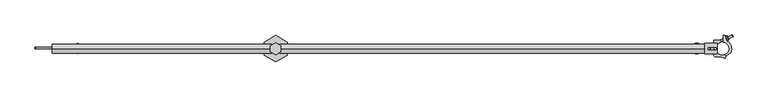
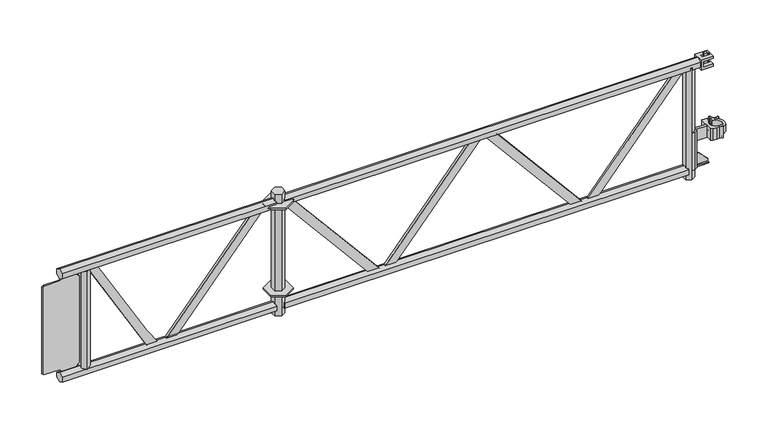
"""IFC4 building model written with IfcOpenShell, lengths in millimetres: proxy geometry, アルバトロスAK4スパン梁枠短ピン付_軽 : アルバトロスAK4スパン梁枠短ピン付_軽."""

from ifc_helpers import new_model, si_unit, point, frame, frame_2d, origin, place, context, project, spatial, polyline, circle_curve, ellipse_curve, trimmed, segment, composite_curve, outline, extrude, faceted_brep, source, transform, mapped, element, save
from ifc_brep_helpers import plane_surface, cylinder_surface, revolved_surface, advanced_brep


def generic_models_5d8191d4(model_context):
    return source(origin(), model_context, "Body", "SolidModel", [
        extrude(outline(polyline([(5522.8993464, 26.5), (5522.8993464, -26.5), (5477.0, -53.0), (5431.1006536, -26.5), (5431.1006536, 26.5), (5477.0, 53.0), (5522.8993464, 26.5)])), frame((0.0, 0.0, -384.0), z_axis=(0.0, 0.0, 1.0), x_axis=(1.0, 0.0, 0.0)), (0.0, 0.0, 1.0), 8.0),
        extrude(outline(polyline([(5522.8993464, 26.5), (5522.8993464, -26.5), (5477.0, -53.0), (5431.1006536, -26.5), (5431.1006536, 26.5), (5477.0, 53.0), (5522.8993464, 26.5)])), frame((0.0, 0.0, -4.0), z_axis=(0.0, 0.0, 1.0), x_axis=(1.0, 0.0, 0.0)), (0.0, 0.0, 1.0), 8.0),
        extrude(outline(polyline([(18.4896424, -439.325), (18.4896424, -460.675), (0.0, -471.35), (-18.4896424, -460.675), (-18.4896424, -439.325), (0.0, -428.65), (18.4896424, -439.325)])), frame((5493.3, 0.0, 0.0), z_axis=(1.0, 0.0, 0.0), x_axis=(0.0, 1.0, 0.0)), (0.0, 0.0, 1.0), 1663.7706837),
        advanced_brep(
        [(7205.5, 18.4896424, 10.675), (7205.5, 0.0, 21.35), (7205.5, -18.4896424, 10.675), (7205.5, -18.4896424, -10.675), (7205.5, 0.0, -21.35), (7205.5, 18.4896424, -10.675), (5493.3, 18.4896424, 10.675), (5493.3, 18.4896424, 4.5), (5493.3, -18.4896424, 4.5), (5493.3, -18.4896424, 10.675), (5493.3, 0.0, 21.35), (5493.3, -18.4896424, -10.675), (5493.3, -18.4896424, -4.5), (5493.3, 18.4896424, -4.5), (5493.3, 18.4896424, -10.675), (5493.3, 0.0, -21.35), (5525.5010555, 18.4896424, -4.5), (5525.5010555, -18.4896424, -4.5), (5525.5010555, -18.4896424, 4.5), (5525.5010555, 18.4896424, 4.5)],
        [
            (0, 1),
            (1, 2),
            (2, 3),
            (3, 4),
            (4, 5),
            (5, 0),
            (6, 7),
            (7, 8),
            (8, 9),
            (9, 10),
            (10, 6),
            (11, 12),
            (12, 13),
            (13, 14),
            (14, 15),
            (15, 11),
            (16, 13),
            (12, 17),
            (17, 16),
            (17, 18, circle_curve(frame((5525.5010555, -18.4896424, 0.0), z_axis=(0.0, -1.0, 0.0), x_axis=(-1.0, 0.0, 0.0)), 4.5)),
            (18, 19),
            (19, 16, circle_curve(frame((5525.5010555, 18.4896424, 0.0), z_axis=(0.0, 1.0, 0.0), x_axis=(-1.0, 0.0, 0.0)), 4.5)),
            (18, 8),
            (7, 19),
            (5, 14),
            (6, 0),
            (4, 15),
            (3, 11),
            (2, 9),
            (1, 10),
        ],
        [
            plane_surface(frame((7205.5, 18.4896424, 10.675), z_axis=(1.0, 0.0, 0.0), x_axis=(0.0, 0.0, -1.0))),
            plane_surface(frame((5493.3, 18.4896424, 10.675), z_axis=(-1.0, 0.0, 0.0), x_axis=(0.0, 0.0, 1.0))),
            plane_surface(frame((5490.5010555, 25.03115, -4.5), z_axis=(2.6608967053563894e-11, 0.0, 1.0), x_axis=(0.0, -1.0, 0.0))),
            revolved_surface(polyline([(5521.0010555, 18.4896424, 0.0), (5521.0010555, -18.4896424, 0.0)]), (5525.5010555, -25.0312, 0.0), (0.0, 1.0, 0.0)),
            plane_surface(frame((5525.5010555, 25.03115, 4.5), z_axis=(0.0, 0.0, -1.0), x_axis=(0.0, -1.0, 0.0))),
            plane_surface(frame((7205.5, 18.4896424, 10.675), z_axis=(0.0, 1.0, 0.0), x_axis=(-1.0, 0.0, 0.0))),
            plane_surface(frame((7205.5, 18.4896424, -10.675), z_axis=(0.0, 0.5000000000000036, -0.8660254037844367), x_axis=(-1.0, 0.0, 0.0))),
            plane_surface(frame((7205.5, 0.0, -21.35), z_axis=(0.0, -0.4999999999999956, -0.8660254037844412), x_axis=(-1.0, 0.0, 0.0))),
            plane_surface(frame((7205.5, -18.4896424, -10.675), z_axis=(0.0, -1.0, 0.0), x_axis=(-1.0, 0.0, 0.0))),
            plane_surface(frame((7205.5, -18.4896424, 10.675), z_axis=(0.0, -0.5000000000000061, 0.8660254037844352), x_axis=(-1.0, 0.0, 0.0))),
            plane_surface(frame((7205.5, 0.0, 21.35), z_axis=(0.0, 0.4999999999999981, 0.8660254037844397), x_axis=(-1.0, 0.0, 0.0))),
        ],
        [
            (0, [[1, 2, 3, 4, 5, 6]]),
            (1, [[7, 8, 9, 10, 11]]),
            (1, [[12, 13, 14, 15, 16]]),
            (2, [[17, -13, 18, 19]]),
            (3, [[20, 21, 22, -19]]),
            (4, [[23, -8, 24, -21]]),
            (5, [[25, -14, -17, -22, -24, -7, 26, -6]]),
            (6, [[27, -15, -25, -5]]),
            (7, [[28, -16, -27, -4]]),
            (8, [[29, -9, -23, -20, -18, -12, -28, -3]]),
            (9, [[30, -10, -29, -2]]),
            (10, [[-26, -11, -30, -1]]),
        ],
    ),
        extrude(outline(polyline([(18.4896424, -439.325), (18.4896424, -460.675), (0.0, -471.35), (-18.4896424, -460.675), (-18.4896424, -439.325), (0.0, -428.65), (18.4896424, -439.325)])), frame((4577.0, 0.0, 0.0), z_axis=(1.0, 0.0, 0.0), x_axis=(0.0, 1.0, 0.0)), (0.0, 0.0, 1.0), 883.7),
        extrude(outline(polyline([(7148.6603576, -10.675), (7148.6603576, 10.675), (7167.15, 21.35), (7185.6396424, 10.675), (7185.6396424, -10.675), (7167.15, -21.35), (7148.6603576, -10.675)])), frame((0.0, 0.0, -484.5), z_axis=(0.0, 0.0, 1.0), x_axis=(1.0, 0.0, 0.0)), (0.0, 0.0, 1.0), 484.5),
        extrude(outline(polyline([(-439.0561906, 5895.7916225), (-13.8441735, 5537.5410927), (-13.8441735, 5493.1572449), (-439.0561906, 5849.9524916), (-439.0561906, 5895.7916225)])), frame((0.0, -5.0, 0.0), z_axis=(0.0, 1.0, 0.0), x_axis=(0.0, 0.0, 1.0)), (0.0, 0.0, 1.0), 10.0),
        extrude(outline(polyline([(-439.0561906, 5053.2022813), (-13.8441735, 5411.4626882), (-13.8441735, 5365.7634358), (-439.0561906, 5007.5030289), (-439.0561906, 5053.2022813)])), frame((0.0, -5.0, 0.0), z_axis=(0.0, 1.0, 0.0), x_axis=(0.0, 0.0, 1.0)), (0.0, 0.0, 1.0), 10.0),
        extrude(outline(polyline([(-439.0561906, 5952.7023303), (-13.8441735, 6310.9627372), (-13.8441735, 6265.1137292), (-439.0561906, 5908.3184825), (-439.0561906, 5952.7023303)])), frame((0.0, -5.0, 0.0), z_axis=(0.0, 1.0, 0.0), x_axis=(0.0, 0.0, 1.0)), (0.0, 0.0, 1.0), 10.0),
        extrude(outline(polyline([(-439.0561906, 6787.8919984), (-13.8441735, 7144.6872451), (-13.8441735, 7100.3033973), (-439.0561906, 6743.5081506), (-439.0561906, 6787.8919984)])), frame((0.0, -5.0, 0.0), z_axis=(0.0, 1.0, 0.0), x_axis=(0.0, 0.0, 1.0)), (0.0, 0.0, 1.0), 10.0),
        extrude(outline(polyline([(-439.0561906, 6729.5260075), (-13.8441735, 6372.7307608), (-13.8441735, 6327.0503023), (-439.0561906, 6685.3008321), (-439.0561906, 6729.5260075)])), frame((0.0, -5.0, 0.0), z_axis=(0.0, 1.0, 0.0), x_axis=(0.0, 0.0, 1.0)), (0.0, 0.0, 1.0), 10.0),
        extrude(outline(composite_curve([segment(polyline([(-367.1676777, 4933.6340565), (-12.1775466, 4727.0076208), (-12.1775466, 4689.4205905), (-439.0561906, 4935.8790905), (-439.0561906, 4983.0382567)]), True, "CONTINUOUS"), segment(trimmed(circle_curve(frame_2d((55.4241867, 5625.5563471)), 810.7652805), [point((-439.0561906, 4983.0382567))], [point((-367.1676777, 4933.6340565))], True, "CARTESIAN"), True, "CONTINUOUS")], self_intersect=False)), frame((0.0, -5.0, 0.0), z_axis=(0.0, 1.0, 0.0), x_axis=(0.0, 0.0, 1.0)), (0.0, 0.0, 1.0), 10.0),
        extrude(outline(polyline([(4660.6603576, -10.675), (4660.6603576, 10.675), (4679.15, 21.35), (4697.6396424, 10.675), (4697.6396424, -10.675), (4679.15, -21.35), (4660.6603576, -10.675)])), frame((0.0, 0.0, -438.1500095), z_axis=(0.0, 0.0, 1.0), x_axis=(1.0, 0.0, 0.0)), (0.0, 0.0, 1.0), 426.300019),
        extrude(outline(polyline([(-21.35, 4587.65), (-31.5, 4577.5), (-31.5, 4512.5), (-36.5, 4507.5), (-413.5, 4507.5), (-418.5, 4512.5), (-418.5, 4577.5), (-428.65, 4587.65), (-428.65, 4642.35), (-413.35, 4657.65), (-36.65, 4657.65), (-21.35, 4642.35), (-21.35, 4587.65)])), frame((0.0, 0.0, 0.0), z_axis=(0.0, 1.0, 0.0), x_axis=(0.0, 0.0, 1.0)), (0.0, 0.0, 1.0), 5.0),
        extrude(outline(polyline([(7179.7665977, 21.3785293), (7193.0, 13.7382209), (7193.0, -13.7382209), (7179.8160119, -21.35), (7167.15, -21.35), (7185.6396424, -10.675), (7185.6396424, 10.675), (7167.1005859, 21.3785293), (7179.7665977, 21.3785293)])), frame((0.0, 0.0, -446.0), z_axis=(0.0, 0.0, 1.0), x_axis=(1.0, 0.0, 0.0)), (0.0, 0.0, 1.0), 163.0),
        advanced_brep(
        [(7240.760376, 32.957563, -285.0), (7240.760376, -25.297825, -285.0), (7248.260376, -32.797825, -285.0), (7262.838406, -32.797825, -285.0), (7273.9922001, -34.3843784, -285.0), (7286.6376322, -38.0561272, -285.0), (7287.8975799, -37.2892777, -285.0), (7288.994413, -31.7276249, -285.0), (7282.6904713, -25.5745678, -285.0), (7269.006281, 24.9507606, -285.0), (7269.006281, 30.457563, -285.0), (7265.006281, 34.457563, -285.0), (7242.260376, 34.457563, -285.0), (7240.760376, 32.957563, -335.0), (7242.260376, 34.457563, -335.0), (7265.006281, 34.457563, -335.0), (7269.006281, 30.457563, -335.0), (7269.006281, 24.9507606, -335.0), (7282.692228, -25.5741772, -335.0), (7288.994413, -31.7276249, -335.0), (7287.8975801, -37.2892778, -335.0), (7286.6376322, -38.0561272, -335.0), (7273.9922, -34.384378, -335.0), (7262.838406, -32.797825, -335.0), (7248.260376, -32.797825, -335.0), (7240.760376, -25.297825, -335.0)],
        [
            (0, 1),
            (1, 2, circle_curve(frame((7248.260376, -25.297825, -285.0), z_axis=(0.0, 0.0, 1.0), x_axis=(1.0, 0.0, 0.0)), 7.5)),
            (2, 3),
            (3, 4, circle_curve(frame((7262.838406, -72.797825, -285.0), z_axis=(0.0, 0.0, -1.0), x_axis=(1.0, 0.0, 0.0)), 40.0)),
            (4, 5),
            (5, 6, circle_curve(frame((7286.916477, -37.095791, -285.0), z_axis=(0.0, 0.0, 1.0), x_axis=(1.0, 0.0, 0.0)), 1.0)),
            (6, 7),
            (7, 8, circle_curve(frame((7283.833073, -30.709739, -285.0), z_axis=(0.0, 0.0, 1.0), x_axis=(1.0, 0.0, 0.0)), 5.260753)),
            (8, 9, circle_curve(frame((7277.0, 0.0, -285.0), z_axis=(0.0, 0.0, -1.0), x_axis=(1.0, 0.0, 0.0)), 26.2)),
            (9, 10),
            (10, 11, circle_curve(frame((7265.006281, 30.457563, -285.0), z_axis=(0.0, 0.0, 1.0), x_axis=(1.0, 0.0, 0.0)), 4.0)),
            (11, 12),
            (12, 0, circle_curve(frame((7242.260376, 32.957563, -285.0), z_axis=(0.0, 0.0, 1.0), x_axis=(1.0, 0.0, 0.0)), 1.5)),
            (13, 14, circle_curve(frame((7242.260376, 32.957563, -335.0), z_axis=(0.0, 0.0, -1.0), x_axis=(1.0, 0.0, 0.0)), 1.5)),
            (14, 15),
            (15, 16, circle_curve(frame((7265.006281, 30.457563, -335.0), z_axis=(0.0, 0.0, -1.0), x_axis=(1.0, 0.0, 0.0)), 4.0)),
            (16, 17),
            (17, 18, circle_curve(frame((7277.0, 0.0, -335.0), z_axis=(0.0, 0.0, 1.0), x_axis=(1.0, 0.0, 0.0)), 26.2)),
            (18, 19, circle_curve(frame((7283.833073, -30.709739, -335.0), z_axis=(0.0, 0.0, -1.0), x_axis=(1.0, 0.0, 0.0)), 5.260753)),
            (19, 20),
            (20, 21, circle_curve(frame((7286.916477, -37.095791, -335.0), z_axis=(0.0, 0.0, -1.0), x_axis=(1.0, 0.0, 0.0)), 1.0)),
            (21, 22),
            (22, 23, circle_curve(frame((7262.838406, -72.797825, -335.0), z_axis=(0.0, 0.0, 1.0), x_axis=(1.0, 0.0, 0.0)), 40.0)),
            (23, 24),
            (24, 25, circle_curve(frame((7248.260376, -25.297825, -335.0), z_axis=(0.0, 0.0, -1.0), x_axis=(1.0, 0.0, 0.0)), 7.5)),
            (25, 13),
            (0, 13),
            (25, 1),
            (24, 2),
            (23, 3),
            (22, 4),
            (21, 5),
            (20, 6),
            (19, 7),
            (18, 8),
            (17, 9),
            (16, 10),
            (15, 11),
            (14, 12),
        ],
        [
            plane_surface(frame((7243.760376, 32.957563, -285.0), z_axis=(0.0, 0.0, 1.0), x_axis=(0.0, -1.0, 0.0))),
            plane_surface(frame((7243.760376, 32.957563, -335.0), z_axis=(0.0, 0.0, -1.0), x_axis=(0.0, 1.0, 0.0))),
            plane_surface(frame((7240.760376, -25.297825, -285.0), z_axis=(-1.0, 0.0, 0.0), x_axis=(0.0, 0.0, -1.0))),
            cylinder_surface(frame((7248.260376, -25.297825, -335.0), z_axis=(0.0, 0.0, 1.0), x_axis=(1.0, 0.0, 0.0)), 7.5),
            plane_surface(frame((7262.838406, -32.797825, -285.0), z_axis=(0.0, -1.0, 0.0), x_axis=(0.0, 0.0, -1.0))),
            revolved_surface(polyline([(7302.838406, -72.797825, -335.0), (7302.838406, -72.797825, -285.0)]), (7262.838406, -72.797825, -335.0), (0.0, 0.0, -1.0)),
            plane_surface(frame((7286.6376322, -38.0561272, -285.0), z_axis=(-0.27884484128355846, -0.9603361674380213, 0.0), x_axis=(0.0, 0.0, -1.0))),
            cylinder_surface(frame((7286.916477, -37.095791, -335.0), z_axis=(0.0, 0.0, 1.0), x_axis=(1.0, 0.0, 0.0)), 1.0),
            plane_surface(frame((7288.994413, -31.7276249, -285.0), z_axis=(0.9811028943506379, -0.19348671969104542, 0.0), x_axis=(0.0, 0.0, -1.0))),
            cylinder_surface(frame((7283.833073, -30.709739, -335.0), z_axis=(0.0, 0.0, 1.0), x_axis=(1.0, 0.0, 0.0)), 5.260753),
            revolved_surface(polyline([(7303.2, 0.0, -335.0), (7303.2, 0.0, -285.0)]), (7277.0, 0.0, -335.0), (0.0, 0.0, -1.0)),
            plane_surface(frame((7269.006281, 30.457563, -285.0), z_axis=(1.0, 0.0, 0.0), x_axis=(0.0, 0.0, -1.0))),
            cylinder_surface(frame((7265.006281, 30.457563, -335.0), z_axis=(0.0, 0.0, 1.0), x_axis=(1.0, 0.0, 0.0)), 4.0),
            plane_surface(frame((7242.260376, 34.457563, -285.0), z_axis=(0.0, 1.0, 0.0), x_axis=(0.0, 0.0, -1.0))),
            cylinder_surface(frame((7242.260376, 32.957563, -335.0), z_axis=(0.0, 0.0, 1.0), x_axis=(1.0, 0.0, 0.0)), 1.5),
        ],
        [
            (0, [[1, 2, 3, 4, 5, 6, 7, 8, 9, 10, 11, 12, 13]]),
            (1, [[14, 15, 16, 17, 18, 19, 20, 21, 22, 23, 24, 25, 26]]),
            (2, [[27, -26, 28, -1]]),
            (3, [[-28, -25, 29, -2]]),
            (4, [[-29, -24, 30, -3]]),
            (5, [[-30, -23, 31, -4]]),
            (6, [[-31, -22, 32, -5]]),
            (7, [[-32, -21, 33, -6]]),
            (8, [[-33, -20, 34, -7]]),
            (9, [[-34, -19, 35, -8]]),
            (10, [[-35, -18, 36, -9]]),
            (11, [[-36, -17, 37, -10]]),
            (12, [[-37, -16, 38, -11]]),
            (13, [[-38, -15, 39, -12]]),
            (14, [[-39, -14, -27, -13]]),
        ],
    ),
        advanced_brep(
        [(7279.953176, 26.0330319, -294.5), (7282.6904714, -25.5745681, -294.5), (7288.994413, -31.7276248, -294.5), (7288.6296233, -33.5773448, -294.5), (7309.0794389, -16.7734791, -294.5), (7293.4637483, 32.2394943, -294.5), (7285.5386472, 51.7679076, -294.5), (7283.685439, 53.015831, -294.5), (7279.953176, 53.015831, -294.5), (7279.953176, 26.0330319, -325.5), (7279.953176, 53.015831, -325.5), (7283.685439, 53.015831, -325.5), (7285.5386472, 51.7679076, -325.5), (7293.4637483, 32.2394943, -325.5), (7309.0794389, -16.7734791, -325.5), (7288.6296233, -33.5773448, -325.5), (7288.994413, -31.7276248, -325.5), (7282.6904713, -25.5745678, -325.5)],
        [
            (0, 1, circle_curve(frame((7277.0, 0.0, -294.5), z_axis=(0.0, 0.0, -1.0), x_axis=(1.0, 0.0, 0.0)), 26.2)),
            (1, 2, circle_curve(frame((7283.833073, -30.709739, -294.5), z_axis=(0.0, 0.0, -1.0), x_axis=(1.0, 0.0, 0.0)), 5.260753)),
            (2, 3),
            (3, 4),
            (4, 5, circle_curve(frame((7277.0, 0.0, -294.5), z_axis=(0.0, 0.0, 1.0), x_axis=(1.0, 0.0, 0.0)), 36.2)),
            (5, 6),
            (6, 7, circle_curve(frame((7283.685439, 51.015831, -294.5), z_axis=(0.0, 0.0, 1.0), x_axis=(1.0, 0.0, 0.0)), 2.0)),
            (7, 8),
            (8, 0),
            (9, 10),
            (10, 11),
            (11, 12, circle_curve(frame((7283.685439, 51.015831, -325.5), z_axis=(0.0, 0.0, -1.0), x_axis=(1.0, 0.0, 0.0)), 2.0)),
            (12, 13),
            (13, 14, circle_curve(frame((7277.0, 0.0, -325.5), z_axis=(0.0, 0.0, -1.0), x_axis=(1.0, 0.0, 0.0)), 36.2)),
            (14, 15),
            (15, 16),
            (16, 17, circle_curve(frame((7283.833073, -30.709739, -325.5), z_axis=(0.0, 0.0, 1.0), x_axis=(1.0, 0.0, 0.0)), 5.260753)),
            (17, 9, circle_curve(frame((7277.0, 0.0, -325.5), z_axis=(0.0, 0.0, 1.0), x_axis=(1.0, 0.0, 0.0)), 26.2)),
            (0, 9),
            (17, 1),
            (16, 2),
            (15, 3),
            (14, 4),
            (13, 5),
            (12, 6),
            (11, 7),
            (10, 8),
        ],
        [
            plane_surface(frame((7279.953176, 53.015831, -294.5), z_axis=(0.0, 0.0, 1.0), x_axis=(0.0, 1.0, 0.0))),
            plane_surface(frame((7279.953176, 53.015831, -325.5), z_axis=(0.0, 0.0, -1.0), x_axis=(0.0, -1.0, 0.0))),
            revolved_surface(polyline([(7303.2, 0.0, -325.5), (7303.2, 0.0, -294.5)]), (7277.0, 0.0, -325.5), (0.0, 0.0, -1.0)),
            revolved_surface(polyline([(7289.093825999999, -30.709739, -325.5), (7289.093825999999, -30.709739, -294.5)]), (7283.833073, -30.709739, -325.5), (0.0, 0.0, -1.0)),
            plane_surface(frame((7288.6296233, -33.5773448, -294.5), z_axis=(-0.9811028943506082, 0.19348671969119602, 0.0), x_axis=(0.0, 0.0, -1.0))),
            plane_surface(frame((7309.0794389, -16.7734791, -294.5), z_axis=(0.6348703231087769, -0.7726187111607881, 0.0), x_axis=(0.0, 0.0, -1.0))),
            cylinder_surface(frame((7277.0, 0.0, -325.5), z_axis=(0.0, 0.0, 1.0), x_axis=(1.0, 0.0, 0.0)), 36.2),
            plane_surface(frame((7285.5386472, 51.7679076, -294.5), z_axis=(0.9266041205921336, 0.37603830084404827, 0.0), x_axis=(0.0, 0.0, -1.0))),
            cylinder_surface(frame((7283.685439, 51.015831, -325.5), z_axis=(0.0, 0.0, 1.0), x_axis=(1.0, 0.0, 0.0)), 2.0),
            plane_surface(frame((7279.953176, 53.015831, -294.5), z_axis=(0.0, 1.0, 0.0), x_axis=(0.0, 0.0, -1.0))),
            plane_surface(frame((7279.953176, 26.0330319, -294.5), z_axis=(-1.0, 0.0, 0.0), x_axis=(0.0, 0.0, -1.0))),
        ],
        [
            (0, [[1, 2, 3, 4, 5, 6, 7, 8, 9]]),
            (1, [[10, 11, 12, 13, 14, 15, 16, 17, 18]]),
            (2, [[19, -18, 20, -1]]),
            (3, [[-20, -17, 21, -2]]),
            (4, [[-21, -16, 22, -3]]),
            (5, [[-22, -15, 23, -4]]),
            (6, [[-23, -14, 24, -5]]),
            (7, [[-24, -13, 25, -6]]),
            (8, [[-25, -12, 26, -7]]),
            (9, [[-26, -11, 27, -8]]),
            (10, [[-27, -10, -19, -9]]),
        ],
    ),
        advanced_brep(
        [(7291.963329, 35.9367148, -310.0), (7267.7691317, 26.118126, -310.0), (7264.384787, 34.457563, -310.0), (7288.5789843, 44.2761518, -310.0), (7266.0769593, 30.2878445, -310.0), (7318.069279, 51.3875817, -310.0), (7319.385413, 48.1444675, -310.0), (7316.753145, 54.630696, -310.0), (7318.8348462, 46.8418252, -310.0), (7315.450502, 55.181261, -310.0), (7301.229369, 39.6970964, -310.0), (7297.8450237, 48.036535, -310.0), (7302.0754547, 37.6122381, -310.0), (7296.9989379, 50.1213932, -310.0), (7301.9949365, 35.1513404, -310.0), (7295.2262473, 51.8302141, -310.0), (7295.5087077, 32.5190735, -310.0), (7288.7400193, 49.1979451, -310.0), (7296.2607849, 30.6658636, -310.0), (7287.987942, 51.051155, -310.0), (7294.4075743, 29.913793, -310.0), (7286.1347363, 50.2990724, -310.0)],
        [
            (0, 1),
            (1, 2, circle_curve(frame((7266.0769593, 30.2878445, -310.0), z_axis=(0.9266041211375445, 0.3760382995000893, 0.0), x_axis=(-0.3760382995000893, 0.9266041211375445, 0.0)), 4.4999999)),
            (2, 3),
            (3, 0, circle_curve(frame((7290.2711567, 40.1064333, -310.0), z_axis=(-0.9266041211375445, -0.3760382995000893, 0.0), x_axis=(-0.3760382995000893, 0.9266041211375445, 0.0)), 4.4999999)),
            (2, 1, circle_curve(frame((7266.0769593, 30.2878445, -310.0), z_axis=(0.9266041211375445, 0.3760382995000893, 0.0), x_axis=(-0.3760382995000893, 0.9266041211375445, 0.0)), 4.4999999)),
            (0, 3, circle_curve(frame((7290.2711567, 40.1064333, -310.0), z_axis=(-0.9266041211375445, -0.3760382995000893, 0.0), x_axis=(-0.3760382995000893, 0.9266041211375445, 0.0)), 4.4999999)),
            (1, 4),
            (4, 2),
            (5, 6),
            (6, 7, circle_curve(frame((7318.069279, 51.3875817, -310.0), z_axis=(0.9266041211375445, 0.3760382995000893, 0.0), x_axis=(-0.3760382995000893, 0.9266041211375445, 0.0)), 3.4999998)),
            (7, 5),
            (7, 6, circle_curve(frame((7318.069279, 51.3875817, -310.0), z_axis=(0.9266041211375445, 0.3760382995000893, 0.0), x_axis=(-0.3760382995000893, 0.9266041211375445, 0.0)), 3.4999998)),
            (6, 8),
            (8, 9, circle_curve(frame((7317.1426741, 51.0115431, -310.0), z_axis=(0.9266041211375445, 0.3760382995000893, 0.0), x_axis=(-0.3760382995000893, 0.9266041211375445, 0.0)), 4.4999993)),
            (9, 7),
            (9, 8, circle_curve(frame((7317.1426741, 51.0115431, -310.0), z_axis=(0.9266041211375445, 0.3760382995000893, 0.0), x_axis=(-0.3760382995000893, 0.9266041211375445, 0.0)), 4.4999993)),
            (8, 10),
            (10, 11, circle_curve(frame((7299.5371964, 43.8668157, -310.0), z_axis=(0.9266041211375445, 0.3760382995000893, 0.0), x_axis=(-0.3760382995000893, 0.9266041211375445, 0.0)), 4.5000008)),
            (11, 9),
            (11, 10, circle_curve(frame((7299.5371964, 43.8668157, -310.0), z_axis=(0.9266041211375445, 0.3760382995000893, 0.0), x_axis=(-0.3760382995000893, 0.9266041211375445, 0.0)), 4.5000008)),
            (10, 12),
            (12, 13, circle_curve(frame((7299.5371963, 43.8668157, -310.0), z_axis=(0.9266041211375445, 0.3760382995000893, 0.0), x_axis=(-0.3760382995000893, 0.9266041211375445, 0.0)), 6.7499997)),
            (13, 11),
            (13, 12, circle_curve(frame((7299.5371963, 43.8668157, -310.0), z_axis=(0.9266041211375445, 0.3760382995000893, 0.0), x_axis=(-0.3760382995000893, 0.9266041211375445, 0.0)), 6.7499997)),
            (12, 14, circle_curve(frame((7299.2666858, 36.472372, -310.0), z_axis=(0.0, 0.0, -1.0000000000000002), x_axis=(0.7171903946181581, 0.6968772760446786, 0.0)), 3.03125)),
            (14, 15, circle_curve(frame((7298.6105919, 43.4907772, -310.0), z_axis=(0.9266041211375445, 0.3760382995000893, 0.0), x_axis=(-0.3760382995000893, 0.9266041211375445, 0.0)), 8.9999998)),
            (15, 13, circle_curve(frame((7294.190169, 48.981527, -310.0), z_axis=(0.0, 0.0, -1.0000000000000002), x_axis=(1.0000000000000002, 0.0, 0.0)), 3.03125)),
            (15, 14, circle_curve(frame((7298.6105919, 43.4907772, -310.0), z_axis=(0.9266041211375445, 0.3760382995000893, 0.0), x_axis=(-0.3760382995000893, 0.9266041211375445, 0.0)), 8.9999998)),
            (14, 16),
            (16, 17, circle_curve(frame((7292.1243635, 40.8585093, -310.0), z_axis=(0.9266041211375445, 0.3760382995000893, 0.0), x_axis=(-0.3760382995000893, 0.9266041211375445, 0.0)), 8.9999986)),
            (17, 15),
            (17, 16, circle_curve(frame((7292.1243635, 40.8585093, -310.0), z_axis=(0.9266041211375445, 0.3760382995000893, 0.0), x_axis=(-0.3760382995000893, 0.9266041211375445, 0.0)), 8.9999986)),
            (16, 18),
            (18, 19, circle_curve(frame((7292.1243634, 40.8585093, -310.0), z_axis=(0.9266041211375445, 0.3760382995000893, 0.0), x_axis=(-0.3760382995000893, 0.9266041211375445, 0.0)), 11.0000004)),
            (19, 17),
            (19, 18, circle_curve(frame((7292.1243634, 40.8585093, -310.0), z_axis=(0.9266041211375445, 0.3760382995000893, 0.0), x_axis=(-0.3760382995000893, 0.9266041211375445, 0.0)), 11.0000004)),
            (18, 20),
            (20, 21, circle_curve(frame((7290.2711553, 40.1064327, -310.0), z_axis=(0.9266041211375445, 0.3760382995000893, 0.0), x_axis=(-0.3760382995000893, 0.9266041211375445, 0.0)), 10.9999939)),
            (21, 19),
            (21, 20, circle_curve(frame((7290.2711553, 40.1064327, -310.0), z_axis=(0.9266041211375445, 0.3760382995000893, 0.0), x_axis=(-0.3760382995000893, 0.9266041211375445, 0.0)), 10.9999939)),
            (20, 0),
            (3, 21),
        ],
        [
            cylinder_surface(frame((7266.0769593, 30.2878445, -310.0), z_axis=(0.9266041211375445, 0.3760382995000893, 0.0), x_axis=(-0.3760382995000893, 0.9266041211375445, 0.0)), 4.4999999),
            plane_surface(frame((7266.0769593, 30.2878445, -310.0), z_axis=(-0.9266041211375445, -0.3760382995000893, 0.0), x_axis=(-0.3760382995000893, 0.9266041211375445, 0.0))),
            plane_surface(frame((7318.069279, 51.3875817, -310.0), z_axis=(0.9266041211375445, 0.3760382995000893, 0.0), x_axis=(-0.3760382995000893, 0.9266041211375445, 0.0))),
            revolved_surface(polyline([(7315.450502, 55.181261, -310.0), (7316.753145, 54.630696, -310.0)]), (7266.0769593, 30.2878445, -310.0), (0.9266041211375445, 0.3760382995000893, 0.0)),
            cylinder_surface(frame((7266.0769593, 30.2878445, -310.0), z_axis=(0.9266041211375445, 0.3760382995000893, 0.0), x_axis=(-0.3760382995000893, 0.9266041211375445, 0.0)), 4.5000008),
            plane_surface(frame((7299.5371963, 43.8668157, -310.0), z_axis=(0.9266041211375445, 0.3760382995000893, 0.0), x_axis=(-0.3760382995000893, 0.9266041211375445, 0.0))),
            revolved_surface(trimmed(ellipse_curve(frame((7294.190169, 48.981527, -310.0), z_axis=(0.0, 0.0, -1.0000000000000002), x_axis=(1.0000000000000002, 0.0, 0.0)), 3.03125, 3.03125), [point((7295.2262473, 51.8302141, -310.0))], [point((7296.9989377, 50.1213931, -310.0))], True, "CARTESIAN"), (7266.0769593, 30.2878445, -310.0), (0.9266041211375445, 0.3760382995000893, 0.0)),
            cylinder_surface(frame((7266.0769593, 30.2878445, -310.0), z_axis=(0.9266041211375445, 0.3760382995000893, 0.0), x_axis=(-0.3760382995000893, 0.9266041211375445, 0.0)), 8.9999986),
            plane_surface(frame((7292.1243634, 40.8585093, -310.0), z_axis=(0.9266041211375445, 0.3760382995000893, 0.0), x_axis=(-0.3760382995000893, 0.9266041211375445, 0.0))),
            cylinder_surface(frame((7266.0769593, 30.2878445, -310.0), z_axis=(0.9266041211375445, 0.3760382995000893, 0.0), x_axis=(-0.3760382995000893, 0.9266041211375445, 0.0)), 10.9999939),
            plane_surface(frame((7290.2711567, 40.1064333, -310.0), z_axis=(-0.9266041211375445, -0.3760382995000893, 0.0), x_axis=(-0.3760382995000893, 0.9266041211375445, 0.0))),
        ],
        [
            (0, [[1, 2, 3, 4]]),
            (0, [[-3, 5, -1, 6]]),
            (1, [[7, 8, -2]]),
            (1, [[-8, -7, -5]]),
            (2, [[9, 10, 11]]),
            (2, [[-11, 12, -9]]),
            (3, [[13, 14, 15, -10]]),
            (3, [[-15, 16, -13, -12]]),
            (4, [[17, 18, 19, -14]]),
            (4, [[-19, 20, -17, -16]]),
            (5, [[21, 22, 23, -18]]),
            (5, [[-23, 24, -21, -20]]),
            (6, [[25, 26, 27, -22]]),
            (6, [[-27, 28, -25, -24]]),
            (7, [[29, 30, 31, -26]]),
            (7, [[-31, 32, -29, -28]]),
            (8, [[33, 34, 35, -30]]),
            (8, [[-35, 36, -33, -32]]),
            (9, [[37, 38, 39, -34]]),
            (9, [[-39, 40, -37, -36]]),
            (10, [[41, -4, 42, -38]]),
            (10, [[-42, -6, -41, -40]]),
        ],
    ),
        advanced_brep(
        [(7283.833072, -30.709739, -287.5), (7286.3330718, -30.709739, -289.0), (7281.3330722, -30.709739, -289.0), (7287.833072, -30.709739, -289.0), (7279.833072, -30.709739, -289.0), (7287.833072, -30.709739, -290.0), (7279.833072, -30.709739, -290.0), (7283.833072, -30.709739, -290.0)],
        [
            (0, 1, circle_curve(frame((7283.833072, -30.709739, -290.333333), z_axis=(0.0, 1.0, 0.0), x_axis=(1.0, 0.0, 0.0)), 2.833333)),
            (1, 2, circle_curve(frame((7283.833072, -30.709739, -289.0), z_axis=(0.0, 0.0, 1.0), x_axis=(-1.0, 0.0, 0.0)), 2.4999998)),
            (2, 0, circle_curve(frame((7283.833072, -30.709739, -290.333333), z_axis=(0.0, 1.0, 0.0), x_axis=(-1.0, 0.0, 0.0)), 2.833333)),
            (2, 1, circle_curve(frame((7283.833072, -30.709739, -289.0), z_axis=(0.0, 0.0, 1.0), x_axis=(-1.0, 0.0, 0.0)), 2.4999998)),
            (1, 3),
            (3, 4, circle_curve(frame((7283.833072, -30.709739, -289.0), z_axis=(0.0, 0.0, 1.0), x_axis=(-1.0, 0.0, 0.0)), 4.0)),
            (4, 2),
            (4, 3, circle_curve(frame((7283.833072, -30.709739, -289.0), z_axis=(0.0, 0.0, 1.0), x_axis=(-1.0, 0.0, 0.0)), 4.0)),
            (3, 5),
            (5, 6, circle_curve(frame((7283.833072, -30.709739, -290.0), z_axis=(0.0, 0.0, 1.0), x_axis=(-1.0, 0.0, 0.0)), 4.0)),
            (6, 4),
            (6, 5, circle_curve(frame((7283.833072, -30.709739, -290.0), z_axis=(0.0, 0.0, 1.0), x_axis=(-1.0, 0.0, 0.0)), 4.0)),
            (5, 7),
            (7, 6),
        ],
        [
            revolved_surface(trimmed(ellipse_curve(frame((7283.833072, -30.709739, -290.333333), z_axis=(0.0, 1.0, 0.0), x_axis=(-1.0, 0.0, 0.0)), 2.833333, 2.833333), [point((7281.3330722, -30.709739, -289.0))], [point((7283.833072, -30.709739, -287.5))], True, "CARTESIAN"), (7283.833072, -30.709739, -290.0), (0.0, 0.0, 1.0)),
            plane_surface(frame((7283.833072, -30.709739, -289.0), z_axis=(0.0, 0.0, 1.0), x_axis=(-1.0, 0.0, 0.0))),
            cylinder_surface(frame((7283.833072, -30.709739, -290.0), z_axis=(0.0, 0.0, 1.0), x_axis=(-1.0, 0.0, 0.0)), 4.0),
            plane_surface(frame((7283.833072, -30.709739, -290.0), z_axis=(0.0, 0.0, -1.0), x_axis=(-1.0, 0.0, 0.0))),
        ],
        [
            (0, [[1, 2, 3]]),
            (0, [[-3, 4, -1]]),
            (1, [[5, 6, 7, -2]]),
            (1, [[-7, 8, -5, -4]]),
            (2, [[9, 10, 11, -6]]),
            (2, [[-11, 12, -9, -8]]),
            (3, [[13, 14, -10]]),
            (3, [[-14, -13, -12]]),
        ],
    ),
        advanced_brep(
        [(7283.833072, -30.709739, -330.0), (7287.833072, -30.709739, -330.0), (7279.833072, -30.709739, -330.0), (7287.833072, -30.709739, -331.0), (7279.833072, -30.709739, -331.0), (7286.3330718, -30.709739, -331.0), (7281.3330722, -30.709739, -331.0), (7283.833072, -30.709739, -332.5)],
        [
            (0, 1),
            (1, 2, circle_curve(frame((7283.833072, -30.709739, -330.0), z_axis=(0.0, 0.0, 1.0), x_axis=(-1.0, 0.0, 0.0)), 4.0)),
            (2, 0),
            (2, 1, circle_curve(frame((7283.833072, -30.709739, -330.0), z_axis=(0.0, 0.0, 1.0), x_axis=(-1.0, 0.0, 0.0)), 4.0)),
            (1, 3),
            (3, 4, circle_curve(frame((7283.833072, -30.709739, -331.0), z_axis=(0.0, 0.0, 1.0), x_axis=(-1.0, 0.0, 0.0)), 4.0)),
            (4, 2),
            (4, 3, circle_curve(frame((7283.833072, -30.709739, -331.0), z_axis=(0.0, 0.0, 1.0), x_axis=(-1.0, 0.0, 0.0)), 4.0)),
            (3, 5),
            (5, 6, circle_curve(frame((7283.833072, -30.709739, -331.0), z_axis=(0.0, 0.0, 1.0), x_axis=(-1.0, 0.0, 0.0)), 2.4999998)),
            (6, 4),
            (6, 5, circle_curve(frame((7283.833072, -30.709739, -331.0), z_axis=(0.0, 0.0, 1.0), x_axis=(-1.0, 0.0, 0.0)), 2.4999998)),
            (5, 7, circle_curve(frame((7283.833072, -30.709739, -329.666667), z_axis=(0.0, 1.0, 0.0), x_axis=(1.0, 0.0, 0.0)), 2.833333)),
            (7, 6, circle_curve(frame((7283.833072, -30.709739, -329.666667), z_axis=(0.0, 1.0, 0.0), x_axis=(-1.0, 0.0, 0.0)), 2.833333)),
        ],
        [
            plane_surface(frame((7283.833072, -30.709739, -330.0), z_axis=(0.0, 0.0, 1.0), x_axis=(-1.0, 0.0, 0.0))),
            cylinder_surface(frame((7283.833072, -30.709739, -290.0), z_axis=(0.0, 0.0, 1.0), x_axis=(-1.0, 0.0, 0.0)), 4.0),
            plane_surface(frame((7283.833072, -30.709739, -331.0), z_axis=(0.0, 0.0, -1.0), x_axis=(-1.0, 0.0, 0.0))),
            revolved_surface(trimmed(ellipse_curve(frame((7283.833072, -30.709739, -329.666667), z_axis=(0.0, 1.0, 0.0), x_axis=(-1.0, 0.0, 0.0)), 2.833333, 2.833333), [point((7283.833072, -30.709739, -332.5))], [point((7281.3330722, -30.709739, -331.0))], True, "CARTESIAN"), (7283.833072, -30.709739, -290.0), (0.0, 0.0, 1.0)),
        ],
        [
            (0, [[1, 2, 3]]),
            (0, [[-3, 4, -1]]),
            (1, [[5, 6, 7, -2]]),
            (1, [[-7, 8, -5, -4]]),
            (2, [[9, 10, 11, -6]]),
            (2, [[-11, 12, -9, -8]]),
            (3, [[13, 14, -10]]),
            (3, [[-14, -13, -12]]),
        ],
    ),
        advanced_brep(
        [(7263.9085379, 24.359331, -288.8026573), (7263.9085379, 25.408447, -288.8026573), (7263.9085379, 33.408447, -288.8026573), (7263.9085379, 34.457563, -288.8026573), (7263.9085379, 25.408447, -287.8026573), (7263.9085379, 33.408447, -287.8026573), (7263.9085379, 26.9084474, -287.8026573), (7263.9085379, 31.9084466, -287.8026573), (7263.9085379, 29.408447, -286.6020463), (7263.9085379, 29.408447, -333.8828615), (7263.9085379, 26.9084474, -332.6822505), (7263.9085379, 31.9084466, -332.6822505), (7263.9085379, 25.408447, -332.6822505), (7263.9085379, 33.408447, -332.6822505), (7263.9085379, 25.408447, -331.6822505), (7263.9085379, 33.408447, -331.6822505), (7263.9085379, 24.359331, -331.6822505), (7263.9085379, 34.457563, -331.6822505)],
        [
            (0, 1),
            (1, 2, circle_curve(frame((7263.9085379, 29.408447, -288.8026573), z_axis=(0.0, 0.0, -1.0), x_axis=(0.0, 1.0, 0.0)), 4.0)),
            (2, 3),
            (3, 0, circle_curve(frame((7263.9085379, 29.408447, -288.8026573), z_axis=(0.0, 0.0, 1.0), x_axis=(0.0, 1.0, 0.0)), 5.049116)),
            (2, 1, circle_curve(frame((7263.9085379, 29.408447, -288.8026573), z_axis=(0.0, 0.0, -1.0), x_axis=(0.0, 1.0, 0.0)), 4.0)),
            (0, 3, circle_curve(frame((7263.9085379, 29.408447, -288.8026573), z_axis=(0.0, 0.0, 1.0), x_axis=(0.0, 1.0, 0.0)), 5.049116)),
            (1, 4),
            (4, 5, circle_curve(frame((7263.9085379, 29.408447, -287.8026573), z_axis=(0.0, 0.0, -1.0), x_axis=(0.0, 1.0, 0.0)), 4.0)),
            (5, 2),
            (5, 4, circle_curve(frame((7263.9085379, 29.408447, -287.8026573), z_axis=(0.0, 0.0, -1.0), x_axis=(0.0, 1.0, 0.0)), 4.0)),
            (4, 6),
            (6, 7, circle_curve(frame((7263.9085379, 29.408447, -287.8026573), z_axis=(0.0, 0.0, -1.0), x_axis=(0.0, 1.0, 0.0)), 2.4999996)),
            (7, 5),
            (7, 6, circle_curve(frame((7263.9085379, 29.408447, -287.8026573), z_axis=(0.0, 0.0, -1.0), x_axis=(0.0, 1.0, 0.0)), 2.4999996)),
            (6, 8, circle_curve(frame((7263.9085379, 29.408447, -289.8051923), z_axis=(-1.0, 0.0, 0.0), x_axis=(0.0, 0.0, 1.0)), 3.203146)),
            (8, 7, circle_curve(frame((7263.9085379, 29.408447, -289.8051923), z_axis=(-1.0, 0.0, 0.0), x_axis=(0.0, 0.0, 1.0)), 3.203146)),
            (9, 10, circle_curve(frame((7263.9085379, 29.408447, -330.6797155), z_axis=(-1.0, 0.0, 0.0), x_axis=(0.0, 0.0, -1.0)), 3.203146)),
            (10, 11, circle_curve(frame((7263.9085379, 29.408447, -332.6822505), z_axis=(0.0, 0.0, -1.0), x_axis=(0.0, 1.0, 0.0)), 2.4999996)),
            (11, 9, circle_curve(frame((7263.9085379, 29.408447, -330.6797155), z_axis=(-1.0, 0.0, 0.0), x_axis=(0.0, 0.0, -1.0)), 3.203146)),
            (11, 10, circle_curve(frame((7263.9085379, 29.408447, -332.6822505), z_axis=(0.0, 0.0, -1.0), x_axis=(0.0, 1.0, 0.0)), 2.4999996)),
            (10, 12),
            (12, 13, circle_curve(frame((7263.9085379, 29.408447, -332.6822505), z_axis=(0.0, 0.0, -1.0), x_axis=(0.0, 1.0, 0.0)), 4.0)),
            (13, 11),
            (13, 12, circle_curve(frame((7263.9085379, 29.408447, -332.6822505), z_axis=(0.0, 0.0, -1.0), x_axis=(0.0, 1.0, 0.0)), 4.0)),
            (12, 14),
            (14, 15, circle_curve(frame((7263.9085379, 29.408447, -331.6822505), z_axis=(0.0, 0.0, -1.0), x_axis=(0.0, 1.0, 0.0)), 4.0)),
            (15, 13),
            (15, 14, circle_curve(frame((7263.9085379, 29.408447, -331.6822505), z_axis=(0.0, 0.0, -1.0), x_axis=(0.0, 1.0, 0.0)), 4.0)),
            (14, 16),
            (16, 17, circle_curve(frame((7263.9085379, 29.408447, -331.6822505), z_axis=(0.0, 0.0, -1.0), x_axis=(0.0, 1.0, 0.0)), 5.049116)),
            (17, 15),
            (17, 16, circle_curve(frame((7263.9085379, 29.408447, -331.6822505), z_axis=(0.0, 0.0, -1.0), x_axis=(0.0, 1.0, 0.0)), 5.049116)),
            (16, 0),
            (3, 17),
        ],
        [
            plane_surface(frame((7263.9085379, 29.408447, -288.8026573), z_axis=(0.0, 0.0, 1.0), x_axis=(0.0, 1.0, 0.0))),
            cylinder_surface(frame((7263.9085379, 29.408447, -327.200611), z_axis=(0.0, 0.0, -1.0), x_axis=(0.0, 1.0, 0.0)), 4.0),
            plane_surface(frame((7263.9085379, 29.408447, -287.8026573), z_axis=(0.0, 0.0, 1.0), x_axis=(0.0, 1.0, 0.0))),
            revolved_surface(trimmed(ellipse_curve(frame((7263.9085379, 29.408447, -289.8051923), z_axis=(-1.0, 0.0, 0.0), x_axis=(0.0, 0.0, 1.0)), 3.203146, 3.203146), [point((7263.9085379, 29.408447, -286.6020463))], [point((7263.9085379, 31.9084466, -287.8026573))], True, "CARTESIAN"), (7263.9085379, 29.408447, -327.200611), (0.0, 0.0, -1.0)),
            revolved_surface(trimmed(ellipse_curve(frame((7263.9085379, 29.408447, -330.6797155), z_axis=(-1.0, 0.0, 0.0), x_axis=(0.0, 0.0, -1.0)), 3.203146, 3.203146), [point((7263.9085379, 31.9084466, -332.6822505))], [point((7263.9085379, 29.408447, -333.8828615))], True, "CARTESIAN"), (7263.9085379, 29.408447, -327.200611), (0.0, 0.0, -1.0)),
            plane_surface(frame((7263.9085379, 29.408447, -332.6822505), z_axis=(0.0, 0.0, -1.0), x_axis=(0.0, 1.0, 0.0))),
            plane_surface(frame((7263.9085379, 29.408447, -331.6822505), z_axis=(0.0, 0.0, -1.0), x_axis=(0.0, 1.0, 0.0))),
            cylinder_surface(frame((7263.9085379, 29.408447, -327.200611), z_axis=(0.0, 0.0, -1.0), x_axis=(0.0, 1.0, 0.0)), 5.049116),
        ],
        [
            (0, [[1, 2, 3, 4]]),
            (0, [[-3, 5, -1, 6]]),
            (1, [[7, 8, 9, -2]]),
            (1, [[-9, 10, -7, -5]]),
            (2, [[11, 12, 13, -8]]),
            (2, [[-13, 14, -11, -10]]),
            (3, [[15, 16, -12]]),
            (3, [[-16, -15, -14]]),
            (4, [[17, 18, 19]]),
            (4, [[-19, 20, -17]]),
            (5, [[21, 22, 23, -18]]),
            (5, [[-23, 24, -21, -20]]),
            (1, [[25, 26, 27, -22]]),
            (1, [[-27, 28, -25, -24]]),
            (6, [[29, 30, 31, -26]]),
            (6, [[-31, 32, -29, -28]]),
            (7, [[33, -4, 34, -30]]),
            (7, [[-34, -6, -33, -32]]),
        ],
    ),
        extrude(outline(polyline([(7240.760376, 5.0), (7240.760376, -5.0), (7188.35, -5.0), (7188.35, 5.0), (7240.760376, 5.0)])), frame((0.0, 0.0, -335.0), z_axis=(0.0, 0.0, 1.0), x_axis=(1.0, 0.0, 0.0)), (0.0, 0.0, 1.0), 50.0),
        faceted_brep([(7188.35, 2.5, -394.0), (7207.85, 2.5, -394.0), (7243.85, 2.5, -430.0), (7243.85, 2.5, -440.0), (7188.35, 2.5, -440.0), (7188.35, -2.5, -394.0), (7188.35, -2.5, -440.0), (7243.85, -2.5, -440.0), (7243.85, -2.5, -430.0), (7207.85, -2.5, -394.0), (7243.85, -10.0, -440.0), (7243.85, -10.0, -446.0), (7243.85, 10.0, -446.0), (7243.85, 10.0, -440.0), (7186.1053671, 10.0, -446.0), (7186.1053671, 10.0, -440.0), (7186.1053671, -10.0, -440.0), (7186.1053671, -10.0, -446.0)], [[[0, 1, 2, 3, 4]], [[5, 6, 7, 8, 9]], [[4, 6, 5, 0]], [[2, 8, 7, 10, 11, 12, 13, 3]], [[1, 9, 8, 2]], [[0, 5, 9, 1]], [[12, 14, 15, 13]], [[11, 10, 16, 17]], [[15, 16, 10, 7, 6, 4, 3, 13]], [[14, 17, 16, 15]], [[12, 11, 17, 14]]]),
        extrude(outline(polyline([(7241.7098725, 4.0), (7241.7098725, -4.0), (7229.2, -4.0), (7229.2, 4.0), (7241.7098725, 4.0)])), frame((0.0, 0.0, -30.4381753), z_axis=(0.0, 0.0, 1.0), x_axis=(1.0, 0.0, 0.0)), (0.0, 0.0, 1.0), 62.0561051),
        faceted_brep([(7255.9408, 21.5, -12.0), (7255.9408, 21.5, -21.5), (7205.5, 21.5, -21.5), (7205.5, 21.5, 21.5), (7255.9408, 21.5, 21.5), (7255.9408, 21.5, 12.0), (7213.7, 21.5, 12.0), (7213.7, 21.5, -12.0), (7255.9408, -21.5, -12.0), (7213.7, -21.5, -12.0), (7213.7, -21.5, 12.0), (7255.9408, -21.5, 12.0), (7255.9408, -21.5, 21.5), (7205.5, -21.5, 21.5), (7205.5, -21.5, -21.5), (7255.9408, -21.5, -21.5), (7227.2, -4.25, -12.0), (7227.2, 4.25, -12.0), (7251.4064538, 4.25, -12.0), (7251.4064538, -4.25, -12.0), (7251.4064538, -4.25, 12.0), (7251.4064538, 4.25, 12.0), (7220.2, 4.25, 12.0), (7220.2, -4.25, 12.0), (7220.2, -4.25, 21.5), (7220.2, 4.25, 21.5), (7251.4064538, 4.25, 21.5), (7251.4064538, -4.25, 21.5), (7251.4064538, -4.25, -21.5), (7251.4064538, 4.25, -21.5), (7227.2, 4.25, -21.5), (7227.2, -4.25, -21.5)], [[[0, 1, 2, 3, 4, 5, 6, 7]], [[8, 9, 10, 11, 12, 13, 14, 15]], [[7, 9, 8, 0], [16, 17, 18, 19]], [[5, 11, 10, 6], [20, 21, 22, 23]], [[4, 12, 11, 5]], [[3, 13, 12, 4], [24, 25, 26, 27]], [[1, 15, 14, 2], [28, 29, 30, 31]], [[0, 8, 15, 1]], [[20, 23, 24, 27]], [[23, 22, 25, 24]], [[22, 21, 26, 25]], [[27, 26, 21, 20]], [[28, 31, 16, 19]], [[31, 30, 17, 16]], [[30, 29, 18, 17]], [[19, 18, 29, 28]], [[6, 10, 9, 7]], [[2, 14, 13, 3]]]),
        advanced_brep(
        [(5455.9555827, -12.15, 45.5), (5477.0, -24.3, 45.5), (5498.0444173, -12.15, 45.5), (5498.0444173, 12.15, 45.5), (5477.0, 24.3, 45.5), (5455.9555827, 12.15, 45.5), (5455.9555827, -12.15, -484.5), (5455.9555827, 12.15, -484.5), (5477.0, 24.3, -484.5), (5498.0444173, 12.15, -484.5), (5498.0444173, -12.15, -484.5), (5477.0, -24.3, -484.5), (5493.3, 14.8891906, 11.9465), (5498.0444173, 12.15, 17.8197921), (5498.0444173, -12.15, 17.8197921), (5493.3, -14.8891906, 11.9465), (5493.3, -14.8891906, -10.9465), (5493.3, 14.8891906, -10.9465), (5498.0444173, -12.15, -16.8197921), (5498.0444173, 12.15, -16.8197921), (5455.9555827, 7.8465502, -16.8197921), (5458.702196, 13.735758, -13.4196564), (5455.9555827, 12.15, -16.8197921), (5455.9555827, -12.15, -16.8197921), (5458.702196, -13.735758, -13.4196564), (5455.9555827, -7.8465502, -16.8197921), (5455.9555827, -6.1144994, 17.8197921), (5459.8076519, -14.3739932, 13.0511712), (5455.9555827, -12.15, 17.8197921), (5455.9555827, 12.15, 17.8197921), (5459.8076519, 14.3739932, 13.0511712), (5455.9555827, 6.1144994, 17.8197921), (5493.3, 14.8891906, -438.0535), (5498.0444173, 12.15, -432.1802079), (5498.0444173, -12.15, -432.1802079), (5493.3, -14.8891906, -438.0535), (5493.3, -14.8891906, -460.9465), (5493.3, 14.8891906, -460.9465), (5498.0444173, -12.15, -466.8197921), (5498.0444173, 12.15, -466.8197921), (5460.7, 14.8891906, -460.9465), (5455.9555827, 12.15, -466.8197921), (5455.9555827, -12.15, -466.8197921), (5460.7, -14.8891906, -460.9465), (5460.7, -14.8891906, -438.0535), (5460.7, 14.8891906, -438.0535), (5455.9555827, -12.15, -432.1802079), (5455.9555827, 12.15, -432.1802079), (5460.7, 18.4896424, -10.675), (5460.7, 18.4896424, -4.5), (5460.7, 14.8891906, -4.5), (5460.7, 14.8891906, -10.9465), (5460.7, 14.8891906, -12.7537218), (5460.7, 14.8891906, 12.7537218), (5460.7, 14.8891906, 11.9465), (5460.7, 14.8891906, 4.5), (5460.7, 18.4896424, 4.5), (5460.7, 18.4896424, 10.675), (5460.7, -14.8891906, -12.7537218), (5460.7, -14.8891906, -10.9465), (5460.7, -14.8891906, -4.5), (5460.7, -18.4896424, -4.5), (5460.7, -18.4896424, -10.675), (5460.7, -18.4896424, 10.675), (5460.7, -18.4896424, 4.5), (5460.7, -14.8891906, 4.5), (5460.7, -14.8891906, 11.9465), (5460.7, -14.8891906, 12.7537218), (4577.0, 18.4896424, 10.675), (4577.0, 18.4896424, -10.675), (4577.0, 0.0, -21.35), (4577.0, -18.4896424, -10.675), (4577.0, -18.4896424, 10.675), (4577.0, 0.0, 21.35), (5428.4989445, -18.4896424, -4.5), (5463.4989445, -16.505162, -4.5), (5463.4989445, 16.505162, -4.5), (5428.4989445, 18.4896424, -4.5), (5428.4989445, 18.4896424, 4.5), (5428.4989445, -18.4896424, 4.5), (5463.4989445, 16.505162, 4.5), (5463.4989445, -16.505162, 4.5), (5455.9555827, 0.0, -21.35), (5455.9555827, 0.0, 21.35)],
        [
            (0, 1),
            (1, 2),
            (2, 3),
            (3, 4),
            (4, 5),
            (5, 0),
            (6, 7),
            (7, 8),
            (8, 9),
            (9, 10),
            (10, 11),
            (11, 6),
            (12, 13),
            (13, 14),
            (14, 15),
            (15, 12),
            (15, 16),
            (16, 17),
            (17, 12),
            (16, 18),
            (18, 19),
            (19, 17),
            (20, 21),
            (21, 22),
            (22, 20),
            (23, 24),
            (24, 25),
            (25, 23),
            (26, 27),
            (27, 28),
            (28, 26),
            (29, 30),
            (30, 31),
            (31, 29),
            (32, 33),
            (33, 34),
            (34, 35),
            (35, 32),
            (35, 36),
            (36, 37),
            (37, 32),
            (36, 38),
            (38, 39),
            (39, 37),
            (40, 41),
            (41, 42),
            (42, 43),
            (43, 40),
            (43, 44),
            (44, 45),
            (45, 40),
            (44, 46),
            (46, 47),
            (47, 45),
            (48, 49),
            (49, 50),
            (50, 51),
            (51, 52),
            (52, 48),
            (53, 54),
            (54, 55),
            (55, 56),
            (56, 57),
            (57, 53),
            (58, 59),
            (59, 60),
            (60, 61),
            (61, 62),
            (62, 58),
            (63, 64),
            (64, 65),
            (65, 66),
            (66, 67),
            (67, 63),
            (68, 69),
            (69, 70),
            (70, 71),
            (71, 72),
            (72, 73),
            (73, 68),
            (74, 61),
            (60, 75),
            (75, 76),
            (76, 50),
            (49, 77),
            (77, 74),
            (77, 78, circle_curve(frame((5428.4989445, 18.4896424, 0.0), z_axis=(0.0, 1.0, 0.0), x_axis=(1.0, 0.0, 0.0)), 4.5)),
            (78, 79),
            (79, 74, circle_curve(frame((5428.4989445, -18.4896424, 0.0), z_axis=(0.0, -1.0, 0.0), x_axis=(1.0, 0.0, 0.0)), 4.5)),
            (78, 56),
            (55, 80),
            (80, 81),
            (81, 65),
            (64, 79),
            (80, 76),
            (75, 81),
            (68, 57),
            (48, 69),
            (52, 21),
            (20, 82),
            (82, 70),
            (82, 25),
            (24, 58),
            (62, 71),
            (63, 72),
            (67, 27),
            (26, 83),
            (83, 73),
            (83, 31),
            (30, 53),
            (22, 47),
            (46, 23),
            (5, 29),
            (28, 0),
            (6, 42),
            (41, 7),
            (4, 8),
            (3, 13),
            (19, 33),
            (39, 9),
            (18, 34),
            (38, 10),
            (2, 14),
            (1, 11),
        ],
        [
            plane_surface(frame((5455.9555827, -12.15, 45.5), z_axis=(0.0, 0.0, 1.0), x_axis=(0.0, 1.0, 0.0))),
            plane_surface(frame((5455.9555827, -12.15, -484.5), z_axis=(0.0, 0.0, -1.0), x_axis=(0.0, -1.0, 0.0))),
            plane_surface(frame((5501.3, 32.1845532, 21.85), z_axis=(0.7779020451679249, 0.0, -0.6283855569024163), x_axis=(0.0, -1.0, 0.0))),
            plane_surface(frame((5493.3, 32.1845532, 11.9465), z_axis=(1.0, 0.0, 0.0), x_axis=(0.0, -1.0, 0.0))),
            plane_surface(frame((5493.3, 32.1845532, -10.9465), z_axis=(0.7779020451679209, 0.0, 0.6283855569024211), x_axis=(0.0, -1.0, 0.0))),
            plane_surface(frame((5452.7, 32.1845532, -20.85), z_axis=(-0.7779020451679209, 0.0, 0.6283855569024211), x_axis=(0.0, -1.0, 0.0))),
            plane_surface(frame((5460.7, 32.1845532, 11.9465), z_axis=(-0.7779020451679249, 0.0, -0.6283855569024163), x_axis=(0.0, -1.0, 0.0))),
            plane_surface(frame((5501.3, 32.1845532, -428.15), z_axis=(0.7779020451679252, 0.0, -0.6283855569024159), x_axis=(0.0, -1.0, 0.0))),
            plane_surface(frame((5493.3, 32.1845532, -438.0535), z_axis=(1.0, 0.0, 0.0), x_axis=(0.0, -1.0, 0.0))),
            plane_surface(frame((5493.3, 32.1845532, -460.9465), z_axis=(0.7779020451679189, 0.0, 0.6283855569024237), x_axis=(0.0, -1.0, 0.0))),
            plane_surface(frame((5452.7, 32.1845532, -470.85), z_axis=(-0.7779020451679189, 0.0, 0.6283855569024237), x_axis=(0.0, -1.0, 0.0))),
            plane_surface(frame((5460.7, 32.1845532, -460.9465), z_axis=(-1.0, 0.0, 0.0), x_axis=(0.0, -1.0, 0.0))),
            plane_surface(frame((5460.7, 32.1845532, -438.0535), z_axis=(-0.7779020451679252, 0.0, -0.6283855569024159), x_axis=(0.0, -1.0, 0.0))),
            plane_surface(frame((5460.7, 18.4896424, 10.675), z_axis=(1.0, 0.0, 0.0), x_axis=(0.0, 0.0, -1.0))),
            plane_surface(frame((4577.0, 18.4896424, 10.675), z_axis=(-1.0, 0.0, 0.0), x_axis=(0.0, 0.0, 1.0))),
            plane_surface(frame((5428.4989445, 25.03115, -4.5), z_axis=(-2.660478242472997e-11, 0.0, 1.0), x_axis=(0.0, -1.0, 0.0))),
            revolved_surface(polyline([(5432.9989445, 18.4896424, 0.0), (5432.9989445, -18.4896424, 0.0)]), (5428.4989445, -25.0312, 0.0), (0.0, 1.0, 0.0)),
            plane_surface(frame((5463.4989445, 25.03115, 4.5), z_axis=(0.0, 0.0, -1.0), x_axis=(0.0, -1.0, 0.0))),
            plane_surface(frame((5463.4989445, 25.03115, -4.5), z_axis=(-1.0, 0.0, 0.0), x_axis=(0.0, -1.0, 0.0))),
            plane_surface(frame((5460.7, 18.4896424, 10.675), z_axis=(0.0, 1.0, 0.0), x_axis=(-1.0, 0.0, 0.0))),
            plane_surface(frame((5460.7, 18.4896424, -10.675), z_axis=(0.0, 0.5000000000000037, -0.8660254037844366), x_axis=(-1.0, 0.0, 0.0))),
            plane_surface(frame((5460.7, 0.0, -21.35), z_axis=(0.0, -0.49999999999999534, -0.8660254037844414), x_axis=(-1.0, 0.0, 0.0))),
            plane_surface(frame((5460.7, -18.4896424, -10.675), z_axis=(0.0, -1.0, 0.0), x_axis=(-1.0, 0.0, 0.0))),
            plane_surface(frame((5460.7, -18.4896424, 10.675), z_axis=(0.0, -0.5000000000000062, 0.866025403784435), x_axis=(-1.0, 0.0, 0.0))),
            plane_surface(frame((5460.7, 0.0, 21.35), z_axis=(0.0, 0.4999999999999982, 0.8660254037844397), x_axis=(-1.0, 0.0, 0.0))),
            plane_surface(frame((5455.9555827, -12.15, 45.5), z_axis=(-1.0, 0.0, 0.0), x_axis=(0.0, 0.0, -1.0))),
            plane_surface(frame((5455.9555827, 12.15, 45.5), z_axis=(-0.49999999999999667, 0.8660254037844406, 0.0), x_axis=(0.0, 0.0, -1.0))),
            plane_surface(frame((5477.0, 24.3, 45.5), z_axis=(0.49999999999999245, 0.8660254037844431, 0.0), x_axis=(0.0, 0.0, -1.0))),
            plane_surface(frame((5498.0444173, 12.15, 45.5), z_axis=(1.0, 0.0, 0.0), x_axis=(0.0, 0.0, -1.0))),
            plane_surface(frame((5498.0444173, -12.15, 45.5), z_axis=(0.4999999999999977, -0.8660254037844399, 0.0), x_axis=(0.0, 0.0, -1.0))),
            plane_surface(frame((5477.0, -24.3, 45.5), z_axis=(-0.49999999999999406, -0.8660254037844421, 0.0), x_axis=(0.0, 0.0, -1.0))),
        ],
        [
            (0, [[1, 2, 3, 4, 5, 6]]),
            (1, [[7, 8, 9, 10, 11, 12]]),
            (2, [[13, 14, 15, 16]]),
            (3, [[17, 18, 19, -16]]),
            (4, [[20, 21, 22, -18]]),
            (5, [[23, 24, 25]]),
            (5, [[26, 27, 28]]),
            (6, [[29, 30, 31]]),
            (6, [[32, 33, 34]]),
            (7, [[35, 36, 37, 38]]),
            (8, [[39, 40, 41, -38]]),
            (9, [[42, 43, 44, -40]]),
            (10, [[45, 46, 47, 48]]),
            (11, [[49, 50, 51, -48]]),
            (12, [[52, 53, 54, -50]]),
            (13, [[55, 56, 57, 58, 59]]),
            (13, [[60, 61, 62, 63, 64]]),
            (13, [[65, 66, 67, 68, 69]]),
            (13, [[70, 71, 72, 73, 74]]),
            (14, [[75, 76, 77, 78, 79, 80]]),
            (15, [[81, -67, 82, 83, 84, -56, 85, 86]]),
            (16, [[87, 88, 89, -86]]),
            (17, [[90, -62, 91, 92, 93, -71, 94, -88]]),
            (18, [[95, -83, 96, -92]]),
            (19, [[97, -63, -90, -87, -85, -55, 98, -75]]),
            (20, [[-98, -59, 99, -23, 100, 101, -76]]),
            (21, [[-101, 102, -27, 103, -69, 104, -77]]),
            (22, [[-104, -68, -81, -89, -94, -70, 105, -78]]),
            (23, [[-105, -74, 106, -29, 107, 108, -79]]),
            (24, [[-108, 109, -33, 110, -64, -97, -80]]),
            (25, [[-28, -102, -100, -25, 111, -53, 112]]),
            (25, [[113, -34, -109, -107, -31, 114, -6]]),
            (25, [[115, -46, 116, -7]]),
            (26, [[117, -8, -116, -45, -51, -54, -111, -24, -99, -58, -57, -84, -95, -91, -61, -60, -110, -32, -113, -5]]),
            (27, [[118, -13, -19, -22, 119, -35, -41, -44, 120, -9, -117, -4]]),
            (28, [[-21, 121, -36, -119]]),
            (28, [[-120, -43, 122, -10]]),
            (28, [[123, -14, -118, -3]]),
            (29, [[124, -11, -122, -42, -39, -37, -121, -20, -17, -15, -123, -2]]),
            (30, [[-114, -30, -106, -73, -72, -93, -96, -82, -66, -65, -103, -26, -112, -52, -49, -47, -115, -12, -124, -1]]),
        ],
    ),
    ])


if __name__ == "__main__":
    model = new_model("IFC4")
    model_context = context("Model", 3, world=origin())
    ifc_project = project(units=[si_unit("LENGTHUNIT", "METRE", prefix="MILLI")], contexts=[model_context])
    site = spatial("IfcSite", under=ifc_project)
    building = spatial("IfcBuilding", under=site)
    placement = place(None, origin())
    generic_models_shape = generic_models_5d8191d4(model_context)
    element("IfcBuildingElementProxy", 1, Name="アルバトロスAK4スパン梁枠短ピン付_軽 : アルバトロスAK4スパン梁枠短ピン付_軽", ObjectType="アルバトロスAK4スパン梁枠短ピン付_軽 : アルバトロスAK4スパン梁枠短ピン付_軽", at=placement, inside=building, context=model_context, shape_type="MappedRepresentation", body=[
        mapped(generic_models_shape, transform((0.0, 0.0, 0.0), x_axis=(1.0, 0.0, 0.0), y_axis=(0.0, 1.0, 0.0), z_axis=(0.0, 0.0, 1.0))),
    ])
    save(model, "model.ifc")
